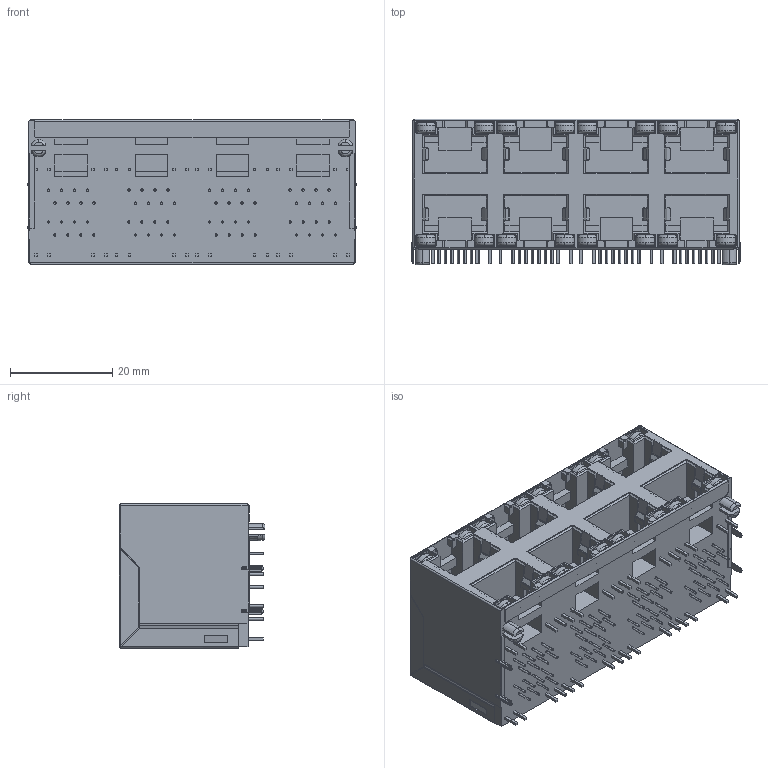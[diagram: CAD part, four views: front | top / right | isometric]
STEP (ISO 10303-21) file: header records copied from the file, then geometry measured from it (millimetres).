
FILE_DESCRIPTION (( 'STEP AP203' ), '1' );
FILE_NAME ('HC-RJ45-059A-2x4-2 (湍腑拸粟-HCTL).STEP', '2026-03-19T02:30:40', ( '' ), ( '' ), 'SwSTEP 2.0', 'SolidWorks 2025', '' );
FILE_SCHEMA (( 'CONFIG_CONTROL_DESIGN' ));
Products named in the file (1): HC-RJ45-059A-2x4-2 (带灯无弹-HCTL)
Bounding box: 64.15 x 28.5 x 28.15 mm (x, y, z)
Volume: 36476.1 mm3; surface area: 13810.8 mm2
Topology: 1 solids, 1 shells, 1825 faces, 4817 edges, 3034 vertices
Faces by surface type: plane 1150, cylinder 531, torus 74, sphere 68, cone 2
Entity records: 55582 total; most frequent: CARTESIAN_POINT 10009, DIRECTION 9523, ORIENTED_EDGE 9498, EDGE_CURVE 4749, LINE 3407, VECTOR 3407, AXIS2_PLACEMENT_3D 3058, VERTEX_POINT 3034
